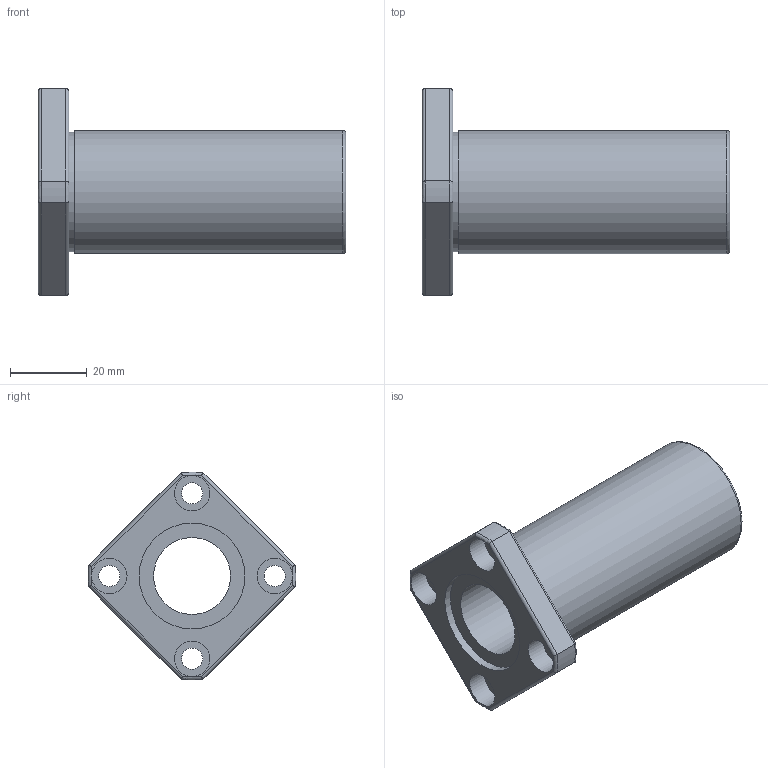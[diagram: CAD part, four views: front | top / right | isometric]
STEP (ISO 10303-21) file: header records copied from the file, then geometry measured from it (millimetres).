
FILE_DESCRIPTION( ( 'Unknown' ), '1' );
FILE_NAME( 'D:/累诀/己绕皋墨飘肺葱胶/11-04-06_档搁累己/01_府聪绢何教/LMK L/LMK 20L.stp', 'Unknown', ( 'Unknown' ), ( 'Unknown' ), 'PSStep 11.0', 'Unknown', ' ' );
FILE_SCHEMA( ( 'AUTOMOTIVE_DESIGN { 1 0 10303 214 1 1 1 1 }' ) );
Length unit declared in the file: millimetre
Products named in the file (1): 1
Bounding box: 80 x 53.98 x 53.97 mm (x, y, z)
Volume: 43654.4 mm3; surface area: 17035.7 mm2
Topology: 1 solids, 1 shells, 48 faces, 105 edges, 67 vertices
Faces by surface type: cylinder 25, plane 14, torus 9
Full cylindrical faces by diameter (mm): 5.5 x4, 9.2 x4, 20 x1, 27.5 x2, 31 x1, 32 x1
Entity records: 1718 total; most frequent: CARTESIAN_POINT 311, DIRECTION 216, ORIENTED_EDGE 174, AXIS2_PLACEMENT_3D 96, EDGE_CURVE 87, EDGE_LOOP 80, VERTEX_POINT 63, FACE_OUTER_BOUND 62
